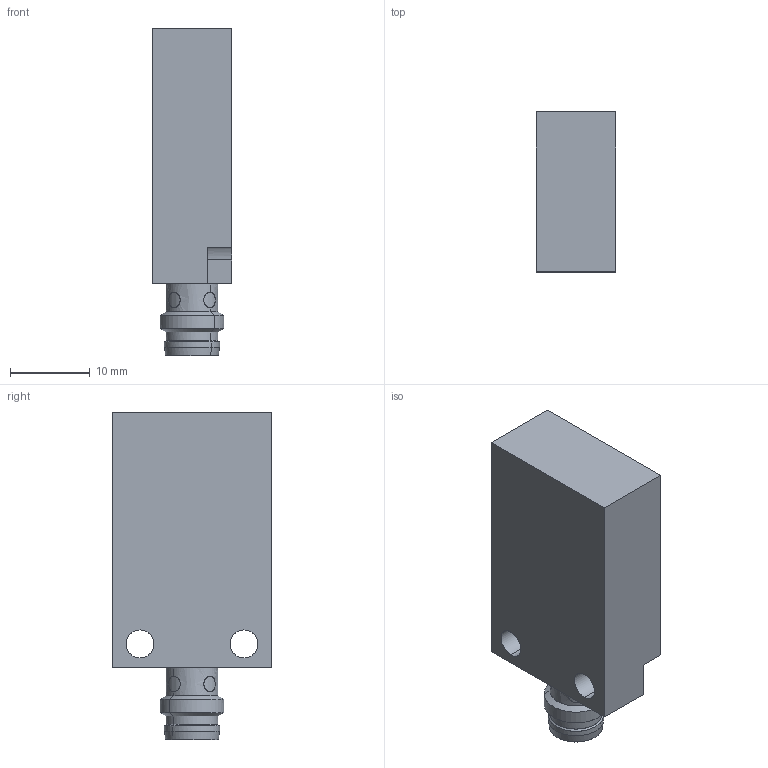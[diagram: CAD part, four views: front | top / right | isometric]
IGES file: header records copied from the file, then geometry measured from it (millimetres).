
Start section: Comment
Global section: file name: IFFM 20xxx01_S35L.igs; native system:  By Spatial Corp.; preprocessor: XPlus GENERIC/IGES 3.0; author: Author; organization: Title; date: 20060328.142619; units: inch
Bounding box: 10 x 20 x 41 mm (x, y, z)
Surface area: 2839.5 mm2 (no closed solid volume)
Topology: 0 solids, 0 shells, 76 faces, 352 edges, 340 vertices
Faces by surface type: bspline 76
